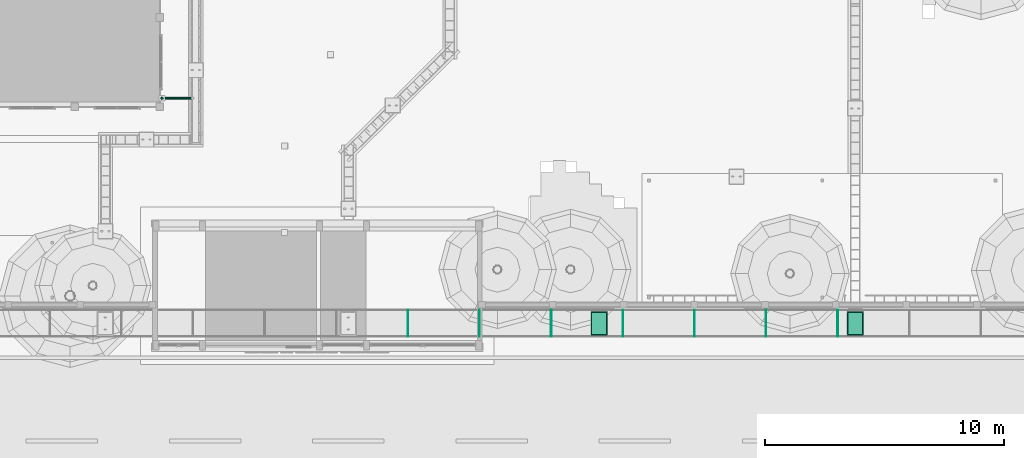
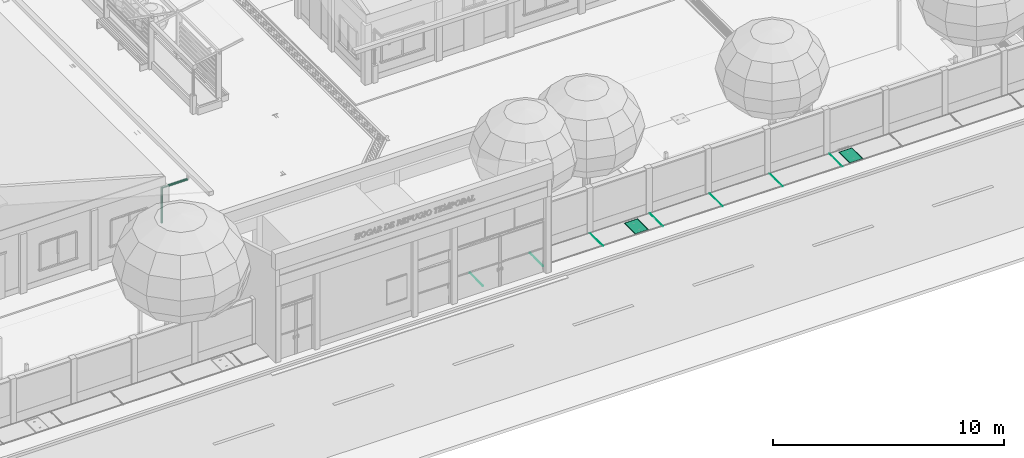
# One storey, part 90 of 166: 9 flow segments, 4 distribution chamber elements.
"""IFC2X3 building model written with IfcOpenShell, lengths in metres."""

from ifc_helpers import new_model, si_unit, origin, origin_with_axes, place, context, subcontext, project, spatial, faceted_brep, element, save


model = new_model("IFC2X3")

# Units and contexts
model_context = context("Model", 3, precision=1e-05, world=origin_with_axes())
body_context = subcontext(model_context, "Body", "Model", "MODEL_VIEW")
ifc_project = project(units=[si_unit("LENGTHUNIT", "METRE"), si_unit("AREAUNIT", "SQUARE_METRE"), si_unit("VOLUMEUNIT", "CUBIC_METRE"), si_unit("PLANEANGLEUNIT", "RADIAN")], contexts=[model_context])

# Site, building, storey
site_placement = place(None, origin_with_axes())
site = spatial("IfcSite", under=ifc_project, at=site_placement, Name="Predio Los Mangos - Morales, San Martín", CompositionType="ELEMENT")
building_placement = place(site_placement, origin())
building = spatial("IfcBuilding", under=site, at=building_placement, Name="Hogar de Refugio Temporal", CompositionType="ELEMENT")
storey_placement = place(building_placement, origin())
storey = spatial("IfcBuildingStorey", under=building, at=storey_placement, Name="NIVEL 1 (NPT +0.00)", CompositionType="ELEMENT", Elevation=0.0)

# Flow segments
flow_segment_1_placement = place(storey_placement, origin())
element("IfcFlowSegment", 1, at=flow_segment_1_placement, inside=storey, Name="montante_desvio", ObjectType="Montante PVC 4\"", context=body_context, shape_type="Brep", body=[
    faceted_brep([(32.98, 26.65, 2.965), (31.69, 26.65, 2.965), (31.69, 26.6225, 2.9576), (32.98, 26.6225, 2.9576), (31.69, 26.6024, 2.9375), (32.98, 26.6024, 2.9375), (31.69, 26.595, 2.91), (32.98, 26.595, 2.91), (31.69, 26.6024, 2.8825), (32.98, 26.6024, 2.8825), (31.69, 26.6225, 2.8624), (32.98, 26.6225, 2.8624), (31.69, 26.65, 2.855), (32.98, 26.65, 2.855), (31.69, 26.6775, 2.8624), (32.98, 26.6775, 2.8624), (31.69, 26.6976, 2.8825), (32.98, 26.6976, 2.8825), (31.69, 26.705, 2.91), (32.98, 26.705, 2.91), (31.69, 26.6976, 2.9375), (32.98, 26.6976, 2.9375), (31.69, 26.6775, 2.9576), (32.98, 26.6775, 2.9576)], [[[0, 1, 2, 3]], [[3, 2, 4, 5]], [[5, 4, 6, 7]], [[7, 6, 8, 9]], [[9, 8, 10, 11]], [[11, 10, 12, 13]], [[13, 12, 14, 15]], [[15, 14, 16, 17]], [[17, 16, 18, 19]], [[19, 18, 20, 21]], [[2, 1, 22, 20, 18, 16, 14, 12, 10, 8, 6, 4]], [[21, 20, 22, 23]], [[23, 22, 1, 0]], [[0, 3, 5, 7, 9, 11, 13, 15, 17, 19, 21, 23]]]),
])
flow_segment_2_placement = place(storey_placement, origin())
element("IfcFlowSegment", 2, at=flow_segment_2_placement, inside=storey, Name="montante_bajada", ObjectType="Montante PVC 4\"", context=body_context, shape_type="Brep", body=[
    faceted_brep([(31.69, 26.705, 2.91), (31.69, 26.705, 1.05), (31.6625, 26.6976, 1.05), (31.6625, 26.6976, 2.91), (31.6424, 26.6775, 1.05), (31.6424, 26.6775, 2.91), (31.635, 26.65, 1.05), (31.635, 26.65, 2.91), (31.6424, 26.6225, 1.05), (31.6424, 26.6225, 2.91), (31.6625, 26.6024, 1.05), (31.6625, 26.6024, 2.91), (31.69, 26.595, 1.05), (31.69, 26.595, 2.91), (31.7175, 26.6024, 1.05), (31.7175, 26.6024, 2.91), (31.7376, 26.6225, 1.05), (31.7376, 26.6225, 2.91), (31.745, 26.65, 1.05), (31.745, 26.65, 2.91), (31.7376, 26.6775, 1.05), (31.7376, 26.6775, 2.91), (31.7175, 26.6976, 1.05), (31.7175, 26.6976, 2.91)], [[[0, 1, 2, 3]], [[3, 2, 4, 5]], [[5, 4, 6, 7]], [[7, 6, 8, 9]], [[9, 8, 10, 11]], [[11, 10, 12, 13]], [[13, 12, 14, 15]], [[15, 14, 16, 17]], [[17, 16, 18, 19]], [[19, 18, 20, 21]], [[2, 1, 22, 20, 18, 16, 14, 12, 10, 8, 6, 4]], [[21, 20, 22, 23]], [[23, 22, 1, 0]], [[0, 3, 5, 7, 9, 11, 13, 15, 17, 19, 21, 23]]]),
])
flow_segment_3_placement = place(storey_placement, origin())
element("IfcFlowSegment", 3, at=flow_segment_3_placement, inside=storey, Name="junta_losa", ObjectType="Colector frontal b=0.80 (losa-vereda)", context=body_context, shape_type="Brep", body=[
    faceted_brep([(59.9873, 16.665, 0.15), (59.9873, 17.79, 0.15), (60.0127, 17.79, 0.15), (60.0127, 16.665, 0.15), (59.9873, 16.665, 0.1635), (60.0127, 16.665, 0.1635), (60.0127, 17.79, 0.1635), (59.9873, 17.79, 0.1635)], [[[0, 1, 2, 3]], [[4, 5, 6, 7]], [[0, 3, 5, 4]], [[3, 2, 6, 5]], [[2, 1, 7, 6]], [[1, 0, 4, 7]]]),
])
flow_segment_4_placement = place(storey_placement, origin())
element("IfcFlowSegment", 4, at=flow_segment_4_placement, inside=storey, Name="junta_losa", ObjectType="Colector frontal b=0.80 (losa-vereda)", context=body_context, shape_type="Brep", body=[
    faceted_brep([(56.9873, 16.665, 0.15), (56.9873, 17.79, 0.15), (57.0127, 17.79, 0.15), (57.0127, 16.665, 0.15), (56.9873, 16.665, 0.1635), (57.0127, 16.665, 0.1635), (57.0127, 17.79, 0.1635), (56.9873, 17.79, 0.1635)], [[[0, 1, 2, 3]], [[4, 5, 6, 7]], [[0, 3, 5, 4]], [[3, 2, 6, 5]], [[2, 1, 7, 6]], [[1, 0, 4, 7]]]),
])
flow_segment_5_placement = place(storey_placement, origin())
element("IfcFlowSegment", 5, at=flow_segment_5_placement, inside=storey, Name="junta_losa", ObjectType="Colector frontal b=0.80 (losa-vereda)", context=body_context, shape_type="Brep", body=[
    faceted_brep([(53.9873, 16.665, 0.15), (53.9873, 17.79, 0.15), (54.0127, 17.79, 0.15), (54.0127, 16.665, 0.15), (53.9873, 16.665, 0.1635), (54.0127, 16.665, 0.1635), (54.0127, 17.79, 0.1635), (53.9873, 17.79, 0.1635)], [[[0, 1, 2, 3]], [[4, 5, 6, 7]], [[0, 3, 5, 4]], [[3, 2, 6, 5]], [[2, 1, 7, 6]], [[1, 0, 4, 7]]]),
])
flow_segment_6_placement = place(storey_placement, origin())
element("IfcFlowSegment", 6, at=flow_segment_6_placement, inside=storey, Name="junta_losa", ObjectType="Colector frontal b=0.80 (losa-vereda)", context=body_context, shape_type="Brep", body=[
    faceted_brep([(50.9873, 16.665, 0.15), (50.9873, 17.79, 0.15), (51.0127, 17.79, 0.15), (51.0127, 16.665, 0.15), (50.9873, 16.665, 0.1635), (51.0127, 16.665, 0.1635), (51.0127, 17.79, 0.1635), (50.9873, 17.79, 0.1635)], [[[0, 1, 2, 3]], [[4, 5, 6, 7]], [[0, 3, 5, 4]], [[3, 2, 6, 5]], [[2, 1, 7, 6]], [[1, 0, 4, 7]]]),
])
flow_segment_7_placement = place(storey_placement, origin())
element("IfcFlowSegment", 7, at=flow_segment_7_placement, inside=storey, Name="junta_losa", ObjectType="Colector frontal b=0.80 (losa-vereda)", context=body_context, shape_type="Brep", body=[
    faceted_brep([(47.9873, 16.665, 0.15), (47.9873, 17.79, 0.15), (48.0127, 17.79, 0.15), (48.0127, 16.665, 0.15), (47.9873, 16.665, 0.1635), (48.0127, 16.665, 0.1635), (48.0127, 17.79, 0.1635), (47.9873, 17.79, 0.1635)], [[[0, 1, 2, 3]], [[4, 5, 6, 7]], [[0, 3, 5, 4]], [[3, 2, 6, 5]], [[2, 1, 7, 6]], [[1, 0, 4, 7]]]),
])
flow_segment_8_placement = place(storey_placement, origin())
element("IfcFlowSegment", 8, at=flow_segment_8_placement, inside=storey, Name="junta_losa", ObjectType="Colector frontal b=0.80 (losa-vereda)", context=body_context, shape_type="Brep", body=[
    faceted_brep([(44.9873, 16.665, 0.15), (44.9873, 17.79, 0.15), (45.0127, 17.79, 0.15), (45.0127, 16.665, 0.15), (44.9873, 16.665, 0.1635), (45.0127, 16.665, 0.1635), (45.0127, 17.79, 0.1635), (44.9873, 17.79, 0.1635)], [[[0, 1, 2, 3]], [[4, 5, 6, 7]], [[0, 3, 5, 4]], [[3, 2, 6, 5]], [[2, 1, 7, 6]], [[1, 0, 4, 7]]]),
])
flow_segment_9_placement = place(storey_placement, origin())
element("IfcFlowSegment", 9, at=flow_segment_9_placement, inside=storey, Name="junta_losa", ObjectType="Colector frontal b=0.80 (losa-vereda)", context=body_context, shape_type="Brep", body=[
    faceted_brep([(41.9873, 16.665, 0.15), (41.9873, 17.79, 0.15), (42.0127, 17.79, 0.15), (42.0127, 16.665, 0.15), (41.9873, 16.665, 0.1635), (42.0127, 16.665, 0.1635), (42.0127, 17.79, 0.1635), (41.9873, 17.79, 0.1635)], [[[0, 1, 2, 3]], [[4, 5, 6, 7]], [[0, 3, 5, 4]], [[3, 2, 6, 5]], [[2, 1, 7, 6]], [[1, 0, 4, 7]]]),
])

# Distribution chamber elements
distribution_chamber_element_1_placement = place(storey_placement, origin())
element("IfcDistributionChamberElement", 10, at=distribution_chamber_element_1_placement, inside=storey, Name="tapa_junta", ObjectType="Tapa ciega de registro del colector", context=body_context, shape_type="Brep", body=[
    faceted_brep([(60.385, 16.72, 0.161), (60.385, 17.71, 0.161), (61.075, 17.71, 0.161), (61.075, 16.72, 0.161), (60.385, 16.72, 0.164), (61.075, 16.72, 0.164), (61.075, 17.71, 0.164), (60.385, 17.71, 0.164)], [[[0, 1, 2, 3]], [[4, 5, 6, 7]], [[0, 3, 5, 4]], [[3, 2, 6, 5]], [[2, 1, 7, 6]], [[1, 0, 4, 7]]]),
])
distribution_chamber_element_2_placement = place(storey_placement, origin())
element("IfcDistributionChamberElement", 11, at=distribution_chamber_element_2_placement, inside=storey, Name="tapa_ciega", ObjectType="Tapa ciega de registro del colector", context=body_context, shape_type="Brep", body=[
    faceted_brep([(60.42, 16.755, 0.161), (60.42, 17.675, 0.161), (61.04, 17.675, 0.161), (61.04, 16.755, 0.161), (60.42, 16.755, 0.17), (61.04, 16.755, 0.17), (61.04, 17.675, 0.17), (60.42, 17.675, 0.17)], [[[0, 1, 2, 3]], [[4, 5, 6, 7]], [[0, 3, 5, 4]], [[3, 2, 6, 5]], [[2, 1, 7, 6]], [[1, 0, 4, 7]]]),
])
distribution_chamber_element_3_placement = place(storey_placement, origin())
element("IfcDistributionChamberElement", 12, at=distribution_chamber_element_3_placement, inside=storey, Name="tapa_junta", ObjectType="Tapa ciega de registro del colector", context=body_context, shape_type="Brep", body=[
    faceted_brep([(49.655, 16.72, 0.161), (49.655, 17.71, 0.161), (50.345, 17.71, 0.161), (50.345, 16.72, 0.161), (49.655, 16.72, 0.164), (50.345, 16.72, 0.164), (50.345, 17.71, 0.164), (49.655, 17.71, 0.164)], [[[0, 1, 2, 3]], [[4, 5, 6, 7]], [[0, 3, 5, 4]], [[3, 2, 6, 5]], [[2, 1, 7, 6]], [[1, 0, 4, 7]]]),
])
distribution_chamber_element_4_placement = place(storey_placement, origin())
element("IfcDistributionChamberElement", 13, at=distribution_chamber_element_4_placement, inside=storey, Name="tapa_ciega", ObjectType="Tapa ciega de registro del colector", context=body_context, shape_type="Brep", body=[
    faceted_brep([(49.69, 16.755, 0.161), (49.69, 17.675, 0.161), (50.31, 17.675, 0.161), (50.31, 16.755, 0.161), (49.69, 16.755, 0.17), (50.31, 16.755, 0.17), (50.31, 17.675, 0.17), (49.69, 17.675, 0.17)], [[[0, 1, 2, 3]], [[4, 5, 6, 7]], [[0, 3, 5, 4]], [[3, 2, 6, 5]], [[2, 1, 7, 6]], [[1, 0, 4, 7]]]),
])

save(model, "model.ifc")
